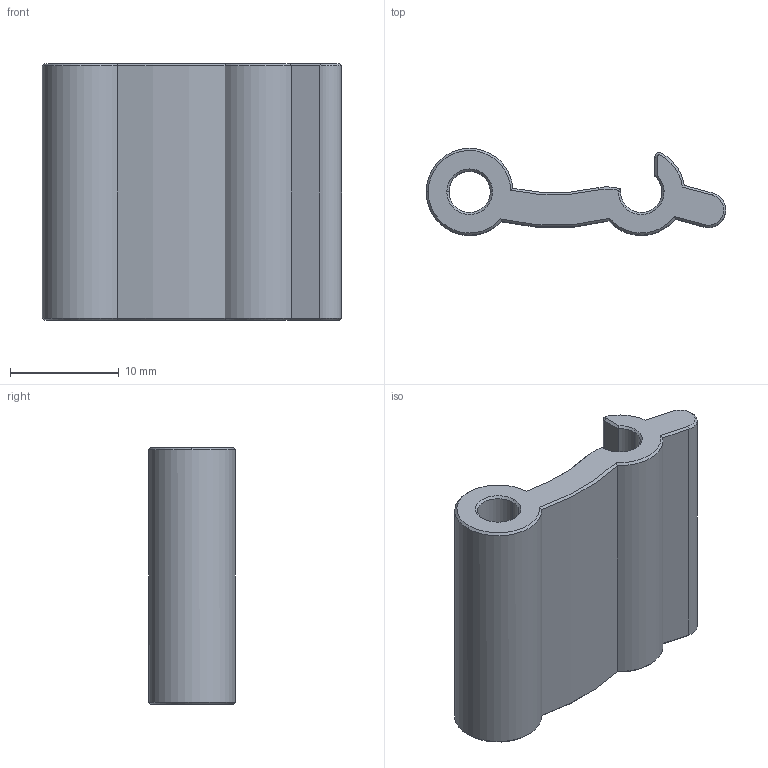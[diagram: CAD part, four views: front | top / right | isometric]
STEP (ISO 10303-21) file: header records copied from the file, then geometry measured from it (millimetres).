
FILE_DESCRIPTION (( 'STEP AP214' ), '1' );
FILE_NAME ('v2_lock.STEP', '2025-12-10T22:52:16', ( '' ), ( '' ), 'SwSTEP 2.0', 'SolidWorks 2023', '' );
FILE_SCHEMA (( 'AUTOMOTIVE_DESIGN' ));
Length unit declared in the file: millimetre
Products named in the file (1): v2_lock
Bounding box: 27.58 x 8 x 23.6 mm (x, y, z)
Volume: 2484.1 mm3; surface area: 2207.6 mm2
Topology: 1 solids, 1 shells, 59 faces, 134 edges, 77 vertices
Faces by surface type: cone 30, cylinder 15, plane 14
Entity records: 1676 total; most frequent: CARTESIAN_POINT 319, DIRECTION 299, ORIENTED_EDGE 268, EDGE_CURVE 134, AXIS2_PLACEMENT_3D 121, VERTEX_POINT 77, CIRCLE 61, EDGE_LOOP 61
